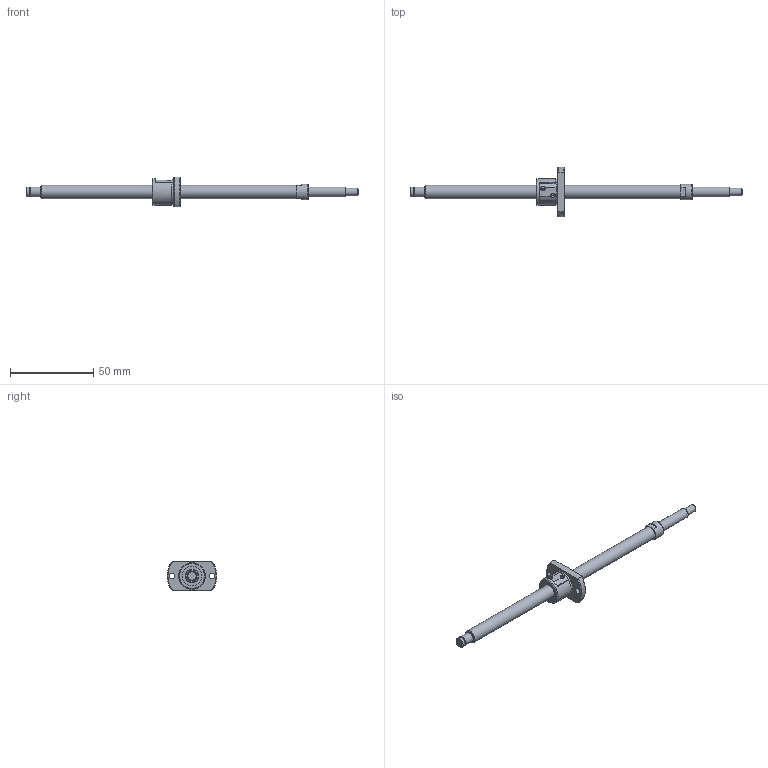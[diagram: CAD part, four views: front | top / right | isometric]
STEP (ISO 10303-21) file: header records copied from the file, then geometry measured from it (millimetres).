
FILE_DESCRIPTION(/* description */ ('STEP AP214'),/* implementation_level */ '2;1');
FILE_NAME(/* name */ 'SG0801-151R200C3B0X(67)',/* time_stamp */ '2026-07-21T16:39:09+02:00',/* author */ ('License CC BY-ND 4.0'),/* organization */ ('CADENAS'),/* preprocessor_version */ 'ST-DEVELOPER v20',/* originating_system */ 'PARTsolutions',/* authorisation */ ' ');
FILE_SCHEMA (('AUTOMOTIVE_DESIGN {1 0 10303 214 3 1 1}'));
Length unit declared in the file: millimetre
Products named in the file (3): SG0801-151R200C3B0X(67); SG0801-151R200C3B_shaft; SG0801_nut
Assembly tree (2 placements, depth 2):
  SG0801-151R200C3B0X(67)
    SG0801-151R200C3B_shaft
    SG0801_nut
Bounding box: 200 x 30 x 18 mm (x, y, z)
Volume: 12710.2 mm3; surface area: 7311.3 mm2
Topology: 2 solids, 2 shells, 81 faces, 193 edges, 126 vertices
Faces by surface type: plane 38, cylinder 28, cone 14, torus 1
Full cylindrical faces by diameter (mm): 3.4 x2, 4.5 x1, 5.7 x1, 6 x3, 8 x2, 9.5 x1, 12 x2, 15.6 x1, 16 x1
Entity records: 2263 total; most frequent: CARTESIAN_POINT 426, DIRECTION 382, ORIENTED_EDGE 318, AXIS2_PLACEMENT_3D 161, EDGE_CURVE 159, EDGE_LOOP 122, FACE_BOUND 122, VERTEX_POINT 117
